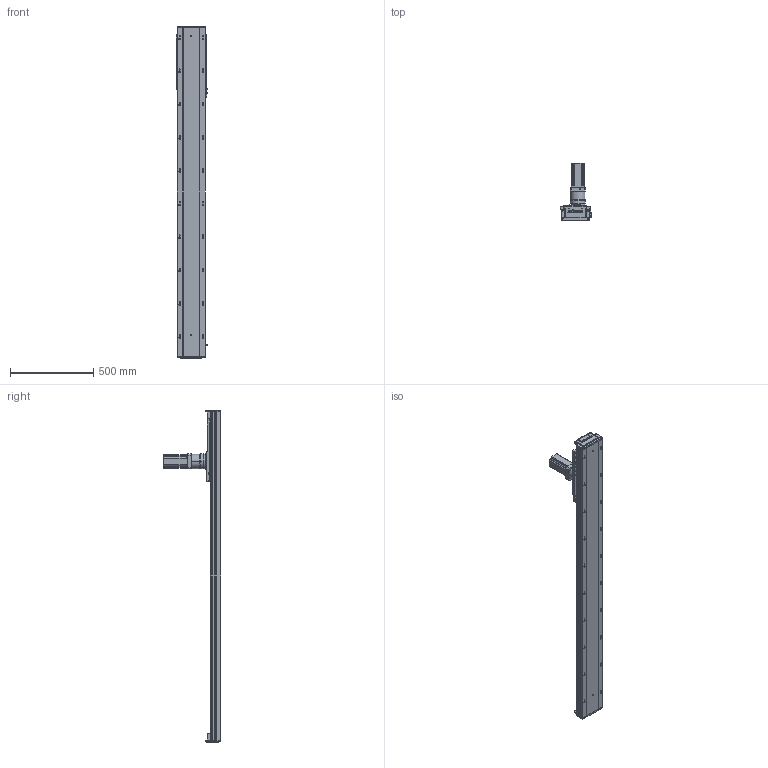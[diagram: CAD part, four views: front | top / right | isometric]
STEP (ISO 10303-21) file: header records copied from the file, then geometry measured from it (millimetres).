
FILE_DESCRIPTION (( 'STEP AP203' ), '1' );
FILE_NAME ('RY170-C-1000-UK.SLDASM_1500.step', '2021-03-03T00:46:41', ( '盈信电脑' ), ( '东莞市道滘镇水果街19号' ), 'SwSTEP 2.0', 'SolidWorks 2012', '' );
FILE_SCHEMA (( 'CONFIG_CONTROL_DESIGN' ));
Products named in the file (13): RY170-喘沭賑輸; RY170-C-1000-UK.SLDASM_1500; 怢湛750W萇儂ㄗ80遺ㄘ; 左旋斜齿齿轮_M2_22齿_内孔20; TF080等撰; RY170-喘沭滅袉蝶輸; RY170綴裔啣ㄗ蜊秶ㄘ; RY170外置感应片(200共用）; 覜茼ん672; RY170-喘謫萇儂覃誹啣; RY170-1000-喘沭耀郪絳寢EGH20CA_1500; RY170-1000齿条模组型材底座_1500; 絳寢賑輸EGH20CA
Assembly tree (22 placements, depth 2):
  RY170-C-1000-UK.SLDASM_1500
    RY170-1000齿条模组型材底座_1500
    絳寢賑輸EGH20CA  x6
    RY170-1000-喘沭耀郪絳寢EGH20CA_1500  x2
    RY170綴裔啣ㄗ蜊秶ㄘ  x2
    覜茼ん672  x3
    RY170外置感应片(200共用）
    RY170-喘謫萇儂覃誹啣
    怢湛750W萇儂ㄗ80遺ㄘ
    RY170-喘沭滅袉蝶輸  x2
    TF080等撰
    左旋斜齿齿轮_M2_22齿_内孔20
    RY170-喘沭賑輸
Bounding box: 188.7 x 343.5 x 2000 mm (x, y, z)
Volume: 11538169.7 mm3; surface area: 2815281.2 mm2
Topology: 24 solids, 24 shells, 4105 faces, 11384 edges, 7316 vertices
Faces by surface type: plane 2035, cylinder 1728, cone 288, bspline 50, torus 4
Entity records: 89818 total; most frequent: CARTESIAN_POINT 20434, ORIENTED_EDGE 14374, DIRECTION 14050, EDGE_CURVE 7187, AXIS2_PLACEMENT_3D 5143, VERTEX_POINT 4678, LINE 3764, VECTOR 3764
